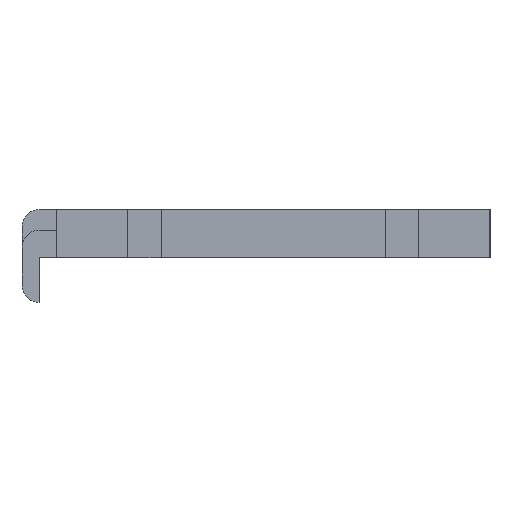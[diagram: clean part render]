
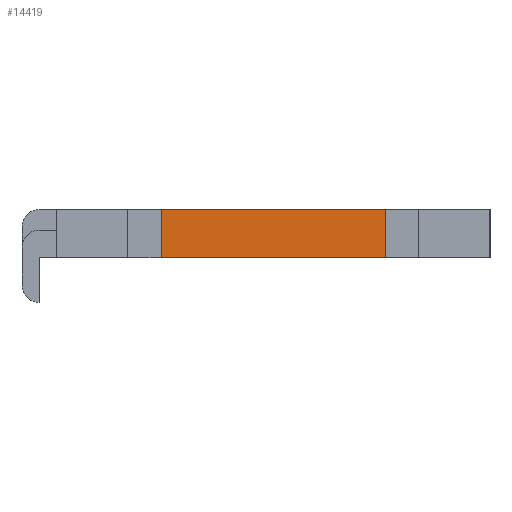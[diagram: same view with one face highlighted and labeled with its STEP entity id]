
A CAD part, front view. The second image highlights one B-rep face of the part: STEP entity #14419.
In plain terms, the highlighted planar face has unit normal (0, -1, 0).
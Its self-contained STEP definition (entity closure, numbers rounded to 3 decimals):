
#681=FACE_OUTER_BOUND('',#1535,.T.);
#1535=EDGE_LOOP('',(#10231,#10232,#10233,#10234));
#2783=LINE('',#20693,#4583);
#2801=LINE('',#20743,#4601);
#2804=LINE('',#20749,#4604);
#2805=LINE('',#20750,#4605);
#4583=VECTOR('',#16583,10.);
#4601=VECTOR('',#16621,10.);
#4604=VECTOR('',#16626,10.);
#4605=VECTOR('',#16627,10.);
#6453=VERTEX_POINT('',#20690);
#6454=VERTEX_POINT('',#20692);
#6476=VERTEX_POINT('',#20742);
#6478=VERTEX_POINT('',#20748);
#7926=EDGE_CURVE('',#6454,#6453,#2783,.T.);
#7953=EDGE_CURVE('',#6476,#6454,#2801,.T.);
#7956=EDGE_CURVE('',#6453,#6478,#2804,.T.);
#7957=EDGE_CURVE('',#6478,#6476,#2805,.T.);
#10231=ORIENTED_EDGE('',*,*,#7953,.T.);
#10232=ORIENTED_EDGE('',*,*,#7926,.T.);
#10233=ORIENTED_EDGE('',*,*,#7956,.T.);
#10234=ORIENTED_EDGE('',*,*,#7957,.T.);
#13785=PLANE('',#15261);
#14419=ADVANCED_FACE('',(#681),#13785,.T.);
#15261=AXIS2_PLACEMENT_3D('',#20747,#16624,#16625);
#16583=DIRECTION('',(1.,0.,0.));
#16621=DIRECTION('',(0.,0.,-1.));
#16624=DIRECTION('center_axis',(0.,-1.,0.));
#16625=DIRECTION('ref_axis',(0.,0.,-1.));
#16626=DIRECTION('',(0.,0.,1.));
#16627=DIRECTION('',(-1.,0.,0.));
#20690=CARTESIAN_POINT('',(30.28,7.,-1.));
#20692=CARTESIAN_POINT('',(-2.28,7.,-1.));
#20693=CARTESIAN_POINT('',(-16.25,7.,-1.));
#20742=CARTESIAN_POINT('',(-2.28,7.,6.));
#20743=CARTESIAN_POINT('',(-2.28,7.,3.));
#20747=CARTESIAN_POINT('Origin',(-17.5,7.,0.));
#20748=CARTESIAN_POINT('',(30.28,7.,6.));
#20749=CARTESIAN_POINT('',(30.28,7.,3.));
#20750=CARTESIAN_POINT('',(40.5,7.,6.));
